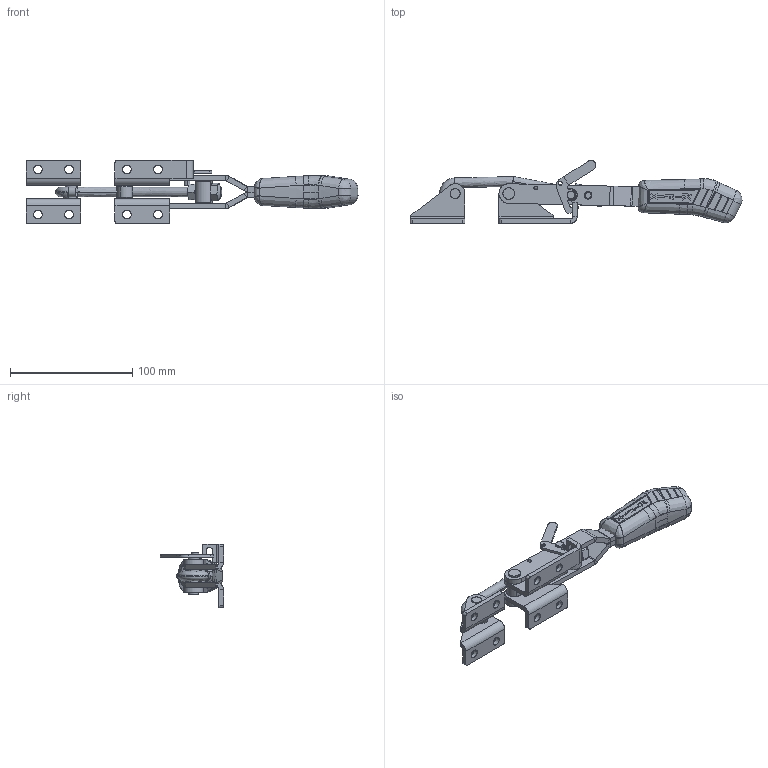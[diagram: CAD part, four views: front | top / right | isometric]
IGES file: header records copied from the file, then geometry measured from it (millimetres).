
Start section: SolidWorks IGES file using analytic representation for surfaces
Global section: file name: C:\Projetos\Grampos\KF-453\KF-453 DTR\KF-453 DTR.IGS; native system: SolidWorks 2013; preprocessor: SolidWorks 2013; author: Ricardo; date: 140821.152305; units: millimetre
Bounding box: 271.66 x 51.59 x 52 mm (x, y, z)
Surface area: 54074.2 mm2 (no closed solid volume)
Topology: 0 solids, 0 shells, 663 faces, 7653 edges, 7645 vertices
Faces by surface type: bspline 400, revolution 263
